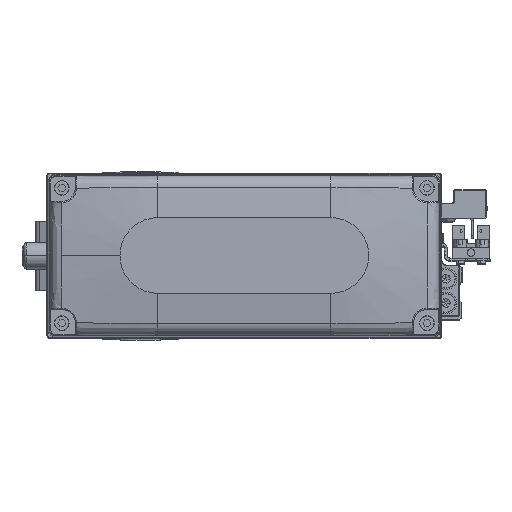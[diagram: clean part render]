
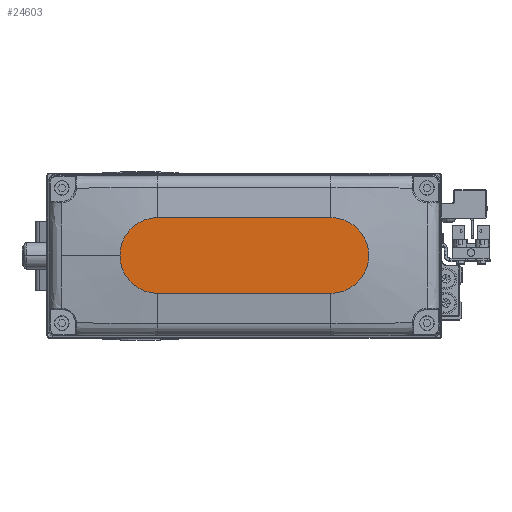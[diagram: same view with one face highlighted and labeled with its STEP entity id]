
A CAD part, top view. The second image highlights one B-rep face of the part: STEP entity #24603.
In plain terms, the highlighted planar face has unit normal (0, 0, 1).
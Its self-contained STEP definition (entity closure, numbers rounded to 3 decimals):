
#1241 = ORIENTED_EDGE ( 'NONE', *, *, #36402, .T. ) ;
#1545 = DIRECTION ( 'NONE',  ( 0., 0., 1. ) ) ;
#2240 = CIRCLE ( 'NONE', #26884, 14. ) ;
#3048 = VERTEX_POINT ( 'NONE', #31202 ) ;
#3597 = DIRECTION ( 'NONE',  ( 1., 0., 0. ) ) ;
#4545 = AXIS2_PLACEMENT_3D ( 'NONE', #43038, #12885, #26317 ) ;
#5785 = CARTESIAN_POINT ( 'NONE',  ( 32., 14., 35. ) ) ;
#6534 = DIRECTION ( 'NONE',  ( 1., 0., 0. ) ) ;
#6985 = VERTEX_POINT ( 'NONE', #5785 ) ;
#7073 = CARTESIAN_POINT ( 'NONE',  ( -32., -14., 35. ) ) ;
#7230 = VECTOR ( 'NONE', #8440, 1000. ) ;
#8338 = ORIENTED_EDGE ( 'NONE', *, *, #20312, .T. ) ;
#8440 = DIRECTION ( 'NONE',  ( 1., 0., 0. ) ) ;
#9484 = VERTEX_POINT ( 'NONE', #16028 ) ;
#10225 = CARTESIAN_POINT ( 'NONE',  ( -32., 14., 35. ) ) ;
#11646 = VERTEX_POINT ( 'NONE', #7073 ) ;
#12885 = DIRECTION ( 'NONE',  ( 0., 0., 1. ) ) ;
#13114 = ORIENTED_EDGE ( 'NONE', *, *, #23682, .T. ) ;
#13327 = ORIENTED_EDGE ( 'NONE', *, *, #35838, .T. ) ;
#14550 = CIRCLE ( 'NONE', #39151, 14. ) ;
#15002 = DIRECTION ( 'NONE',  ( 1., 0., 0. ) ) ;
#15052 = LINE ( 'NONE', #38605, #7230 ) ;
#16028 = CARTESIAN_POINT ( 'NONE',  ( 46., 0., 35. ) ) ;
#16181 = FACE_OUTER_BOUND ( 'NONE', #42323, .T. ) ;
#20312 = EDGE_CURVE ( 'NONE', #9484, #6985, #2240, .T. ) ;
#20359 = CARTESIAN_POINT ( 'NONE',  ( -32., 0., 35. ) ) ;
#23279 = CARTESIAN_POINT ( 'NONE',  ( 32., 0., 35. ) ) ;
#23656 = DIRECTION ( 'NONE',  ( -1., 0., 0. ) ) ;
#23682 = EDGE_CURVE ( 'NONE', #6985, #3048, #40382, .T. ) ;
#24347 = AXIS2_PLACEMENT_3D ( 'NONE', #23279, #36714, #6534 ) ;
#24603 = ADVANCED_FACE ( 'NONE', ( #16181 ), #29606, .T. ) ;
#26317 = DIRECTION ( 'NONE',  ( 1., 0., 0. ) ) ;
#26884 = AXIS2_PLACEMENT_3D ( 'NONE', #31740, #1545, #15002 ) ;
#29177 = EDGE_CURVE ( 'NONE', #11646, #32788, #15052, .T. ) ;
#29606 = PLANE ( 'NONE',  #4545 ) ;
#31202 = CARTESIAN_POINT ( 'NONE',  ( -32., 14., 35. ) ) ;
#31740 = CARTESIAN_POINT ( 'NONE',  ( 32., 0., 35. ) ) ;
#32069 = CARTESIAN_POINT ( 'NONE',  ( 32., -14., 35. ) ) ;
#32788 = VERTEX_POINT ( 'NONE', #32069 ) ;
#33790 = DIRECTION ( 'NONE',  ( 0., 0., 1. ) ) ;
#35838 = EDGE_CURVE ( 'NONE', #32788, #9484, #43346, .T. ) ;
#36402 = EDGE_CURVE ( 'NONE', #3048, #11646, #14550, .T. ) ;
#36714 = DIRECTION ( 'NONE',  ( 0., 0., 1. ) ) ;
#38605 = CARTESIAN_POINT ( 'NONE',  ( -32., -14., 35. ) ) ;
#38942 = VECTOR ( 'NONE', #23656, 1000. ) ;
#39151 = AXIS2_PLACEMENT_3D ( 'NONE', #20359, #33790, #3597 ) ;
#40382 = LINE ( 'NONE', #10225, #38942 ) ;
#41848 = ORIENTED_EDGE ( 'NONE', *, *, #29177, .T. ) ;
#42323 = EDGE_LOOP ( 'NONE', ( #13114, #1241, #41848, #13327, #8338 ) ) ;
#43038 = CARTESIAN_POINT ( 'NONE',  ( 0., 0., 35. ) ) ;
#43346 = CIRCLE ( 'NONE', #24347, 14. ) ;
